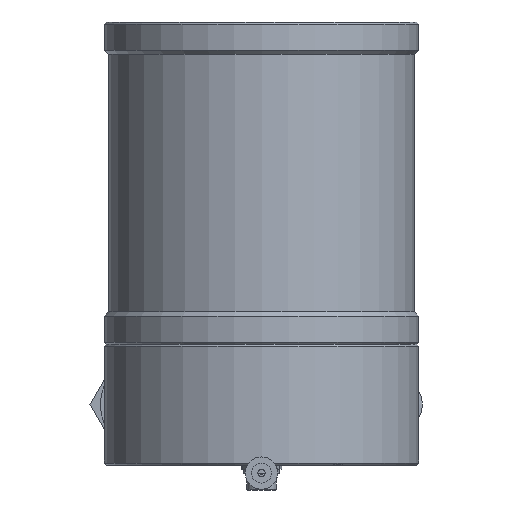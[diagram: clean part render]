
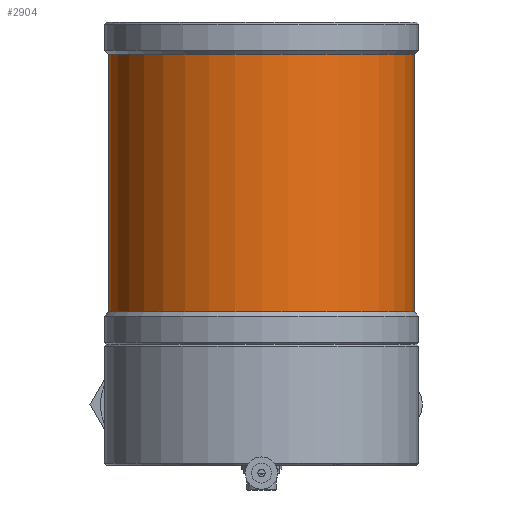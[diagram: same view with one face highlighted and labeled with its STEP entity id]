
A CAD part, front view. The second image highlights one B-rep face of the part: STEP entity #2904.
In plain terms, the highlighted cylindrical face has radius 38 mm (diameter 76 mm), a partial arc.
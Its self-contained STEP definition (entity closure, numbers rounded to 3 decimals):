
#502 = VECTOR ( 'NONE', #54837, 1000. ) ;
#2166 = FACE_OUTER_BOUND ( 'NONE', #10075, .T. ) ;
#2904 = ADVANCED_FACE ( 'NONE', ( #2166 ), #12291, .T. ) ;
#3314 = CARTESIAN_POINT ( 'NONE',  ( 0., 0., -8. ) ) ;
#10075 = EDGE_LOOP ( 'NONE', ( #25775, #35610, #18431, #62097 ) ) ;
#10820 = VECTOR ( 'NONE', #18707, 1000. ) ;
#12291 = CYLINDRICAL_SURFACE ( 'NONE', #62486, 38. ) ;
#13140 = DIRECTION ( 'NONE',  ( -1., 0., 0. ) ) ;
#16646 = AXIS2_PLACEMENT_3D ( 'NONE', #55616, #59781, #50825 ) ;
#17768 = CARTESIAN_POINT ( 'NONE',  ( -38., 0., -8. ) ) ;
#18431 = ORIENTED_EDGE ( 'NONE', *, *, #58377, .T. ) ;
#18707 = DIRECTION ( 'NONE',  ( 0., 0., 1. ) ) ;
#21188 = CIRCLE ( 'NONE', #29310, 38. ) ;
#25446 = EDGE_CURVE ( 'NONE', #49081, #59426, #62006, .T. ) ;
#25775 = ORIENTED_EDGE ( 'NONE', *, *, #42872, .T. ) ;
#26011 = DIRECTION ( 'NONE',  ( 0., 0., 1. ) ) ;
#29310 = AXIS2_PLACEMENT_3D ( 'NONE', #3314, #46245, #13140 ) ;
#35610 = ORIENTED_EDGE ( 'NONE', *, *, #25446, .T. ) ;
#37150 = CARTESIAN_POINT ( 'NONE',  ( 38., 0., 0. ) ) ;
#39864 = VERTEX_POINT ( 'NONE', #17768 ) ;
#42872 = EDGE_CURVE ( 'NONE', #61785, #49081, #55293, .T. ) ;
#45396 = DIRECTION ( 'NONE',  ( -1., 0., 0. ) ) ;
#46245 = DIRECTION ( 'NONE',  ( 0., 0., -1. ) ) ;
#49081 = VERTEX_POINT ( 'NONE', #60401 ) ;
#49410 = CARTESIAN_POINT ( 'NONE',  ( -38., 0., 0. ) ) ;
#50799 = EDGE_CURVE ( 'NONE', #61785, #39864, #59624, .T. ) ;
#50825 = DIRECTION ( 'NONE',  ( 1., 0., 0. ) ) ;
#51582 = CARTESIAN_POINT ( 'NONE',  ( 38., 0., -8. ) ) ;
#54837 = DIRECTION ( 'NONE',  ( 0., 0., 1. ) ) ;
#55293 = CIRCLE ( 'NONE', #16646, 38. ) ;
#55616 = CARTESIAN_POINT ( 'NONE',  ( 0., 0., -72. ) ) ;
#56514 = CARTESIAN_POINT ( 'NONE',  ( 0., 0., 0. ) ) ;
#58377 = EDGE_CURVE ( 'NONE', #59426, #39864, #21188, .T. ) ;
#59426 = VERTEX_POINT ( 'NONE', #51582 ) ;
#59624 = LINE ( 'NONE', #49410, #502 ) ;
#59781 = DIRECTION ( 'NONE',  ( 0., 0., 1. ) ) ;
#59846 = CARTESIAN_POINT ( 'NONE',  ( -38., 0., -72. ) ) ;
#60401 = CARTESIAN_POINT ( 'NONE',  ( 38., 0., -72. ) ) ;
#61785 = VERTEX_POINT ( 'NONE', #59846 ) ;
#62006 = LINE ( 'NONE', #37150, #10820 ) ;
#62097 = ORIENTED_EDGE ( 'NONE', *, *, #50799, .F. ) ;
#62486 = AXIS2_PLACEMENT_3D ( 'NONE', #56514, #26011, #45396 ) ;
